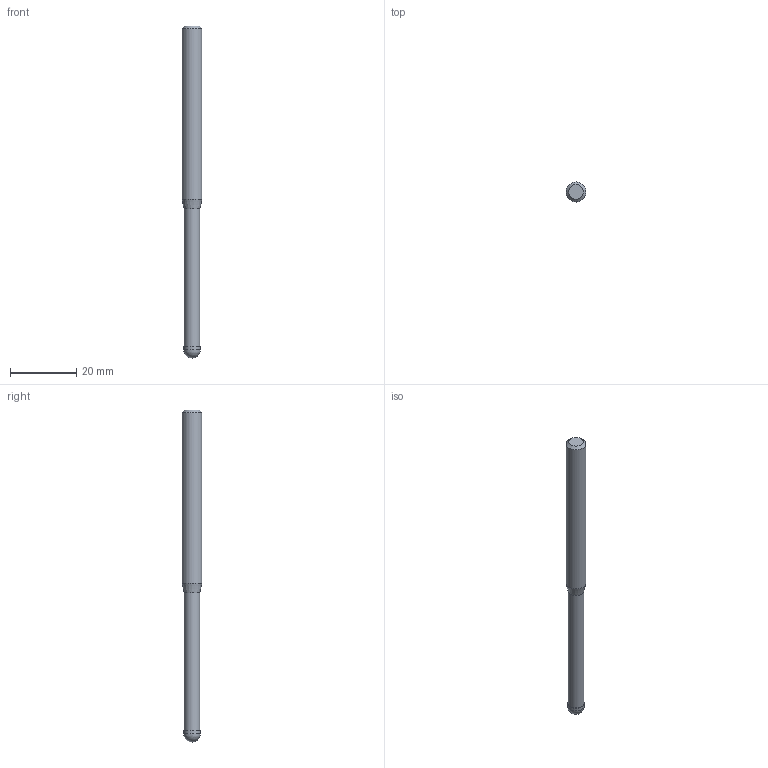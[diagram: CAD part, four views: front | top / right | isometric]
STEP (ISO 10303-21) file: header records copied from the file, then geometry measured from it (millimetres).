
FILE_DESCRIPTION((''),'2;1');
FILE_NAME('C:\Users\nsx150\AppData\Local\Temp\Mastercam 2021\ARV7HD45SN\TEMP.step','2023-06-13T16:39:36',(''),(''),'STEP Write','Mastercam 2021 ... CNC Software, Inc.','');
FILE_SCHEMA(('AUTOMOTIVE_DESIGN'));
Length unit declared in the file: millimetre
Products named in the file (1): None
Bounding box: 6 x 6 x 100 mm (x, y, z)
Volume: 2338 mm3; surface area: 1769.6 mm2
Topology: 2 solids, 2 shells, 9 faces, 14 edges, 8 vertices
Faces by surface type: plane 3, cylinder 3, cone 2, sphere 1
Full cylindrical faces by diameter (mm): 4.8 x1, 5 x1, 6 x1
Entity records: 211 total; most frequent: DIRECTION 36, CARTESIAN_POINT 25, AXIS2_PLACEMENT_3D 18, ORIENTED_EDGE 14, EDGE_LOOP 14, STYLED_ITEM 12, ADVANCED_FACE 9, FACE_BOUND 8
